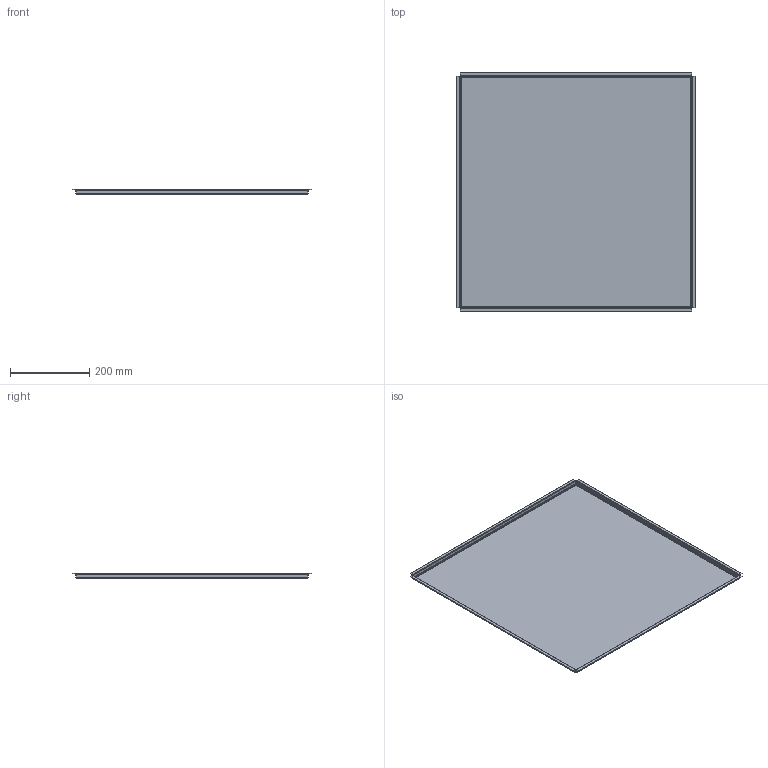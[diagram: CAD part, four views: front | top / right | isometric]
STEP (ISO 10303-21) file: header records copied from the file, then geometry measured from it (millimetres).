
FILE_DESCRIPTION(/* description */ (''),/* implementation_level */ '2;1');
FILE_NAME(/* name */ 'SM_LayInTile_2x2',/* time_stamp */ '2024-10-14T14:40:19-05:00',/* author */ (''),/* organization */ (''),/* preprocessor_version */ 'ST-DEVELOPER v19.2',/* originating_system */ 'Rhino 8.4',/* authorisation */ '');
FILE_SCHEMA (('CONFIG_CONTROL_DESIGN'));
Length unit declared in the file: inch
Products named in the file (1): Document
Bounding box: 600.55 x 600.55 x 13.13 mm (x, y, z)
Volume: 389302.9 mm3; surface area: 768891.3 mm2
Topology: 1 solids, 1 shells, 102 faces, 212 edges, 112 vertices
Faces by surface type: plane 70, cylinder 24, bspline 8
Entity records: 2602 total; most frequent: CARTESIAN_POINT 824, ORIENTED_EDGE 424, EDGE_CURVE 212, B_SPLINE_CURVE_WITH_KNOTS 180, DIRECTION 162, AXIS2_PLACEMENT_3D 128, VERTEX_POINT 112, ADVANCED_FACE 102
